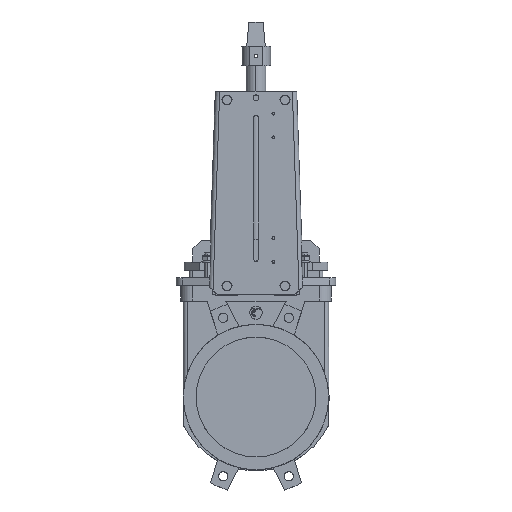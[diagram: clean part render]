
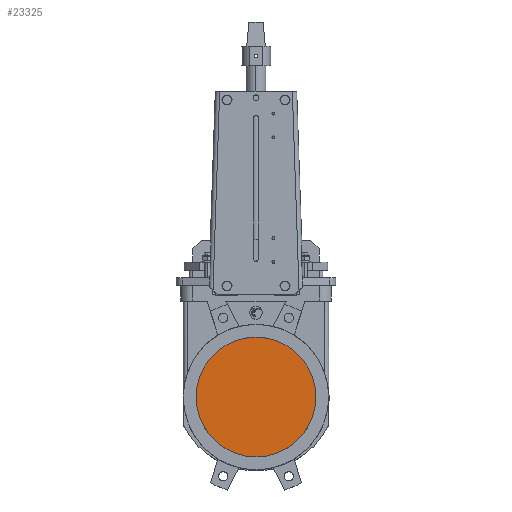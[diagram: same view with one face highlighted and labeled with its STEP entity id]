
A CAD part, top view. The second image highlights one B-rep face of the part: STEP entity #23325.
In plain terms, the highlighted planar face has unit normal (0, 0, 1).
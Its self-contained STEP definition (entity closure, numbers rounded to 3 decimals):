
#9773 = VERTEX_POINT ( 'NONE', #13499 ) ;
#13499 = CARTESIAN_POINT ( 'NONE',  ( 108.75, 41.781, 4. ) ) ;
#17777 = CARTESIAN_POINT ( 'NONE',  ( 108.75, -27.697, 4. ) ) ;
#17782 = DIRECTION ( 'NONE',  ( 1., 0., 0. ) ) ;
#17784 = DIRECTION ( 'NONE',  ( 0., 0., 1. ) ) ;
#17785 = CARTESIAN_POINT ( 'NONE',  ( -108.75, -159.702, 4. ) ) ;
#17786 = AXIS2_PLACEMENT_3D ( 'NONE', #17785, #17784, #17782 ) ;
#17787 = PLANE ( 'NONE',  #17786 ) ;
#17788 = FACE_OUTER_BOUND ( 'NONE', #23316, .T. ) ;
#17804 = DIRECTION ( 'NONE',  ( 1., 0., 0. ) ) ;
#17805 = DIRECTION ( 'NONE',  ( 0., 0., 1. ) ) ;
#17806 = AXIS2_PLACEMENT_3D ( 'NONE', #17811, #17805, #17804 ) ;
#17807 = CIRCLE ( 'NONE', #17806, 114. ) ;
#17811 = CARTESIAN_POINT ( 'NONE',  ( 0., 6.5, 4. ) ) ;
#17917 = DIRECTION ( 'NONE',  ( 1., 0., 0. ) ) ;
#17918 = DIRECTION ( 'NONE',  ( 0., 0., 1. ) ) ;
#17919 = CARTESIAN_POINT ( 'NONE',  ( 0., 0., 4. ) ) ;
#17920 = AXIS2_PLACEMENT_3D ( 'NONE', #17919, #17918, #17917 ) ;
#17921 = CIRCLE ( 'NONE', #17920, 116.5 ) ;
#17961 = CARTESIAN_POINT ( 'NONE',  ( -108.75, 41.781, 4. ) ) ;
#18202 = CARTESIAN_POINT ( 'NONE',  ( -108.75, -27.697, 4. ) ) ;
#18293 = DIRECTION ( 'NONE',  ( 0., 1., 0. ) ) ;
#18294 = VECTOR ( 'NONE', #18293, 1000. ) ;
#18295 = CARTESIAN_POINT ( 'NONE',  ( -108.75, -159.702, 4. ) ) ;
#18296 = LINE ( 'NONE', #18295, #18294 ) ;
#18299 = DIRECTION ( 'NONE',  ( 0., 1., 0. ) ) ;
#18300 = VECTOR ( 'NONE', #18299, 1000. ) ;
#18301 = CARTESIAN_POINT ( 'NONE',  ( 108.75, -159.702, 4. ) ) ;
#18302 = LINE ( 'NONE', #18301, #18300 ) ;
#23316 = EDGE_LOOP ( 'NONE', ( #23611, #23606, #23607, #23888 ) ) ;
#23325 = ADVANCED_FACE ( 'NONE', ( #17788 ), #17787, .T. ) ;
#23328 = VERTEX_POINT ( 'NONE', #17777 ) ;
#23338 = EDGE_CURVE ( 'NONE', #23531, #23328, #17807, .T. ) ;
#23382 = EDGE_CURVE ( 'NONE', #9773, #23406, #17921, .T. ) ;
#23406 = VERTEX_POINT ( 'NONE', #17961 ) ;
#23531 = VERTEX_POINT ( 'NONE', #18202 ) ;
#23606 = ORIENTED_EDGE ( 'NONE', *, *, #23382, .T. ) ;
#23607 = ORIENTED_EDGE ( 'NONE', *, *, #23613, .F. ) ;
#23608 = EDGE_CURVE ( 'NONE', #23328, #9773, #18302, .T. ) ;
#23611 = ORIENTED_EDGE ( 'NONE', *, *, #23608, .T. ) ;
#23613 = EDGE_CURVE ( 'NONE', #23531, #23406, #18296, .T. ) ;
#23888 = ORIENTED_EDGE ( 'NONE', *, *, #23338, .T. ) ;
